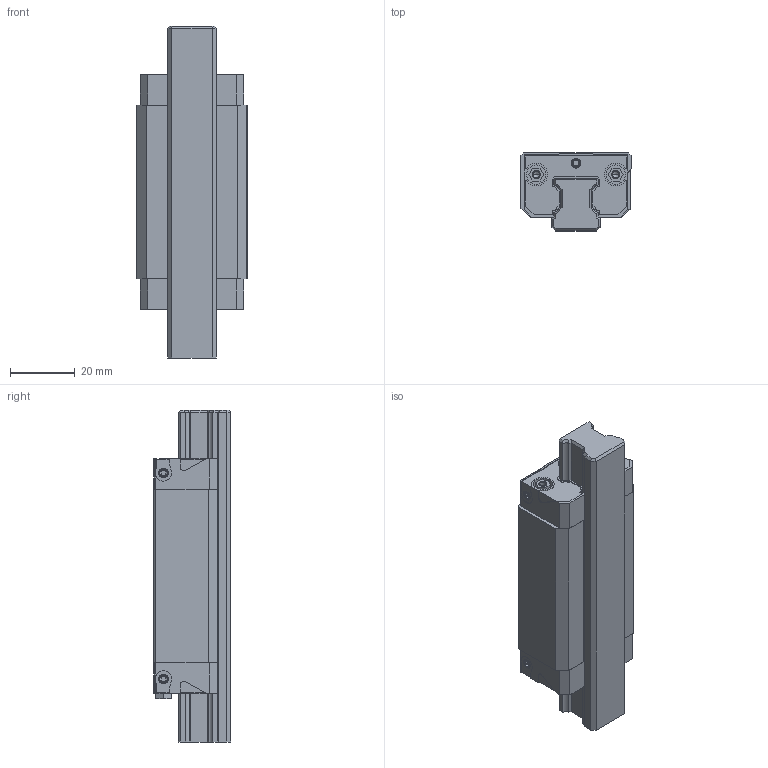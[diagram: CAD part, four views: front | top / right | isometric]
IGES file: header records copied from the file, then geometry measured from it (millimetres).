
Start section: 3D InterOp IGES (v. 2019 1.0.2), Spatial Corp. Copyright (c) 1999-2017.
Global section: file name: R1623_size15.igs; native system: Spatial Corp.; preprocessor: 3D InterOp GENERIC/IGES 3.0; author: Noname; organization: Noname; date: 20220629.124911; units: millimetre
Bounding box: 34 x 24 x 102.6 mm (x, y, z)
Surface area: 23739.8 mm2 (no closed solid volume)
Topology: 0 solids, 0 shells, 509 faces, 2670 edges, 2648 vertices
Faces by surface type: extrusion 291, revolution 218
